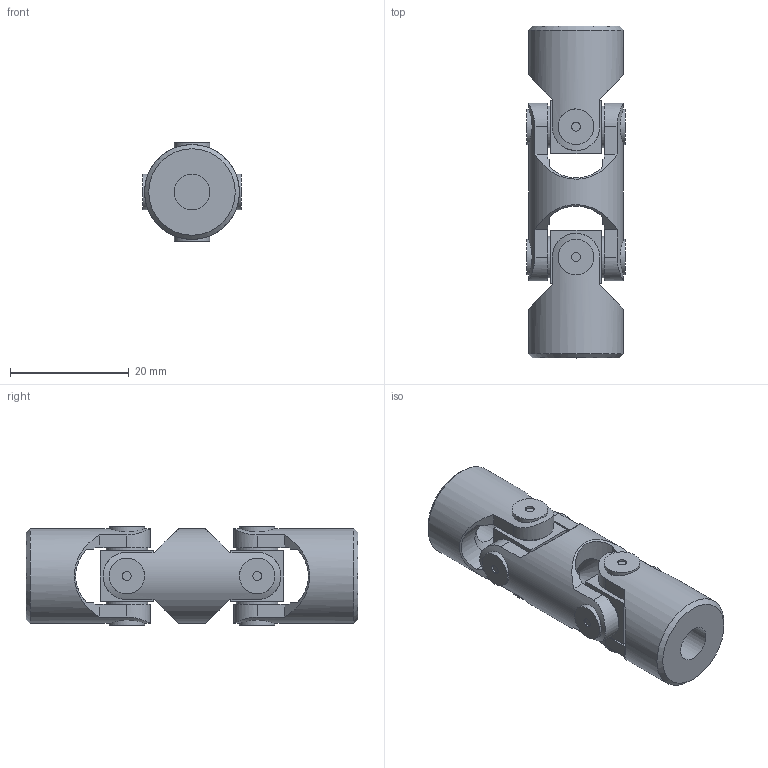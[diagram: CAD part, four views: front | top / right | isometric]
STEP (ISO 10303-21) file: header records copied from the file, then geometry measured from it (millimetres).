
FILE_DESCRIPTION(/* description */ (''),/* implementation_level */ '2;1');
FILE_NAME(/* name */ '\\SRV2016\Societa\Stefano\Disegni 3D\00Catalogo 3D\02Doppi GD-GBD\SG0D0600.stp',/* time_stamp */ '2021-11-22T16:51:29+01:00',/* author */ ('acquisti'),/* organization */ (''),/* preprocessor_version */ 'ST-DEVELOPER v15.6',/* originating_system */ 'Autodesk Inventor 2015',/* authorisation */ '');
FILE_SCHEMA (('AUTOMOTIVE_DESIGN { 1 0 10303 214 3 1 1 }'));
Length unit declared in the file: millimetre
Products named in the file (4): 01G MOD; 01-02G SFE; 01G MOS; Ø16_01GD-00_SG0D0600
Assembly tree (5 placements, depth 2):
  Ø16_01GD-00_SG0D0600
    01G MOD
    01-02G SFE  x2
    01G MOS  x2
Bounding box: 16.7 x 56 x 16.7 mm (x, y, z)
Volume: 7803.8 mm3; surface area: 5571 mm2
Topology: 5 solids, 5 shells, 137 faces, 339 edges, 232 vertices
Faces by surface type: plane 70, cylinder 41, cone 22, torus 4
Full cylindrical faces by diameter (mm): 1.5 x8, 6 x10, 7 x8, 8.5 x4, 16 x3
Entity records: 3196 total; most frequent: CARTESIAN_POINT 1136, DIRECTION 394, ORIENTED_EDGE 386, EDGE_CURVE 193, AXIS2_PLACEMENT_3D 173, VERTEX_POINT 147, EDGE_LOOP 140, FACE_OUTER_BOUND 94
